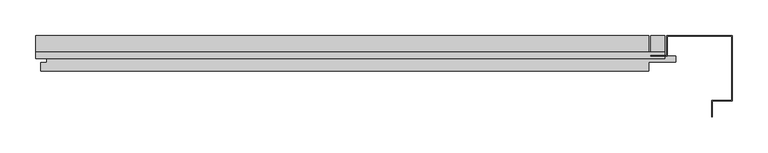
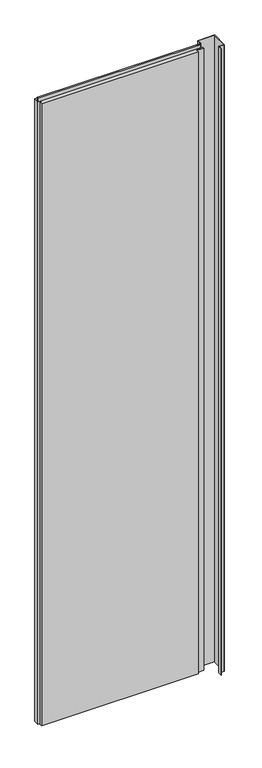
"""IFC4 building model written with IfcOpenShell, lengths in millimetres: plate geometry, Trimo_Qbiss Screen_Normal Panel-VERTICAL : HR - B."""

from ifc_helpers import new_model, si_unit, frame, origin, place, context, project, spatial, polyline, outline, extrude, source, transform, mapped, element, save


def plate_03266036(model_context):
    return source(origin(), model_context, "Body", "SweptSolid", [
        extrude(outline(polyline([(456.0, 97.0), (437.0, 97.0), (437.0, 126.0), (456.0, 126.0), (456.0, 97.0)])), frame((0.0, 0.0, 12.5), z_axis=(0.0, 0.0, 1.0), x_axis=(1.0, 0.0, 0.0)), (0.0, 0.0, 1.0), 3575.0),
        extrude(outline(polyline([(-425.0, 93.9), (-425.0, 102.6), (456.0, 102.6), (456.0, 93.9), (-425.0, 93.9)])), frame((0.0, 0.0, 3590.5), z_axis=(0.0, 0.0, 1.0), x_axis=(1.0, 0.0, 0.0)), (0.0, 0.0, 1.0), 19.0),
        extrude(outline(polyline([(434.0, 97.0), (471.5, 97.0), (471.5, 89.0), (434.0, 89.0), (434.0, 76.0), (-418.0, 76.0), (-418.0, 88.0), (-409.5, 88.0), (-409.5, 98.0), (-425.0, 98.0), (-425.0, 126.0), (434.0, 126.0), (434.0, 97.0)])), frame((0.0, 0.0, 12.5), z_axis=(0.0, 0.0, 1.0), x_axis=(1.0, 0.0, 0.0)), (0.0, 0.0, 1.0), 3575.0),
        extrude(outline(polyline([(459.0, 97.8), (459.0, 126.0), (551.0, 126.0), (551.0, 34.0), (522.8, 34.0), (522.8, 12.0), (522.0, 12.0), (522.0, 34.8), (550.2, 34.8), (550.2, 125.2), (459.8, 125.2), (459.8, 97.0), (437.0, 97.0), (437.0, 97.8), (459.0, 97.8)])), frame((0.0, 0.0, 12.5), z_axis=(0.0, 0.0, 1.0), x_axis=(1.0, 0.0, 0.0)), (0.0, 0.0, 1.0), 3600.0),
    ])


if __name__ == "__main__":
    model = new_model("IFC4")
    model_context = context("Model", 3, world=origin())
    ifc_project = project(units=[si_unit("LENGTHUNIT", "METRE", prefix="MILLI")], contexts=[model_context])
    site = spatial("IfcSite", under=ifc_project)
    building = spatial("IfcBuilding", under=site)
    placement = place(None, origin())
    plate_shape = plate_03266036(model_context)
    element("IfcPlate", 1, ObjectType="Trimo_Qbiss Screen_Normal Panel-VERTICAL : HR - B", at=placement, inside=building, context=model_context, shape_type="MappedRepresentation", body=[
        mapped(plate_shape, transform((0.0, 0.0, 0.0), x_axis=(1.0, 0.0, 0.0), y_axis=(0.0, 1.0, 0.0), z_axis=(0.0, 0.0, 1.0))),
    ])
    save(model, "model.ifc")
